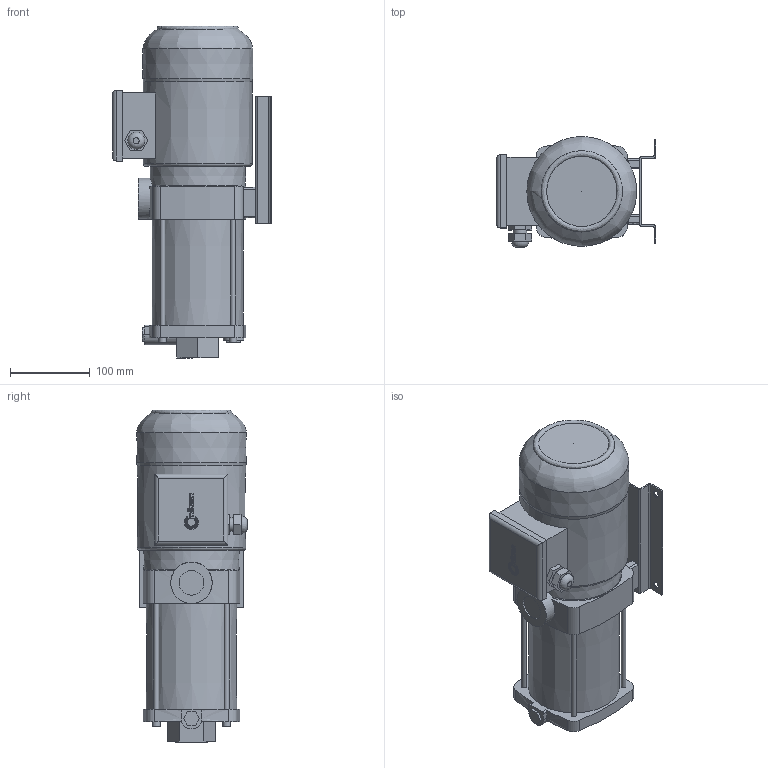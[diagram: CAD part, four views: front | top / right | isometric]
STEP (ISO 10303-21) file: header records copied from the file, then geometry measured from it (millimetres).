
FILE_DESCRIPTION(/* description */ ('Unknown'),/* implementation_level */ '2;1');
FILE_NAME(/* name */ 'hd05',/* time_stamp */ '2025-06-17T14:56:30+03:00',/* author */ ('Unknown'),/* organization */ ('Unknown'),/* preprocessor_version */ 'ST-DEVELOPER v16.7',/* originating_system */ 'DEX',/* authorisation */ $);
FILE_SCHEMA (('AUTOMOTIVE_DESIGN {1 0 10303 214 3 1 1}'));
Length unit declared in the file: millimetre
Products named in the file (1): hd05
Bounding box: 200.5 x 139.29 x 417.08 mm (x, y, z)
Volume: 5455858.7 mm3; surface area: 287407.5 mm2
Topology: 1 solids, 1 shells, 256 faces, 667 edges, 443 vertices
Faces by surface type: plane 106, bspline 75, cylinder 60, cone 12, torus 3
Full cylindrical faces by diameter (mm): 6 x4, 9 x4, 9.5 x4, 17 x1, 21.5 x1, 26 x1, 31 x1, 39.268 x1, 52 x1
Entity records: 11261 total; most frequent: CARTESIAN_POINT 5502, ORIENTED_EDGE 1250, DIRECTION 971, EDGE_CURVE 625, VERTEX_POINT 432, FACE_BOUND 335, EDGE_LOOP 334, AXIS2_PLACEMENT_3D 331
